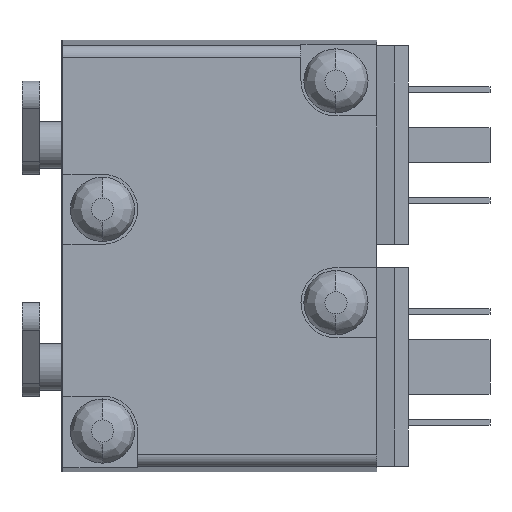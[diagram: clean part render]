
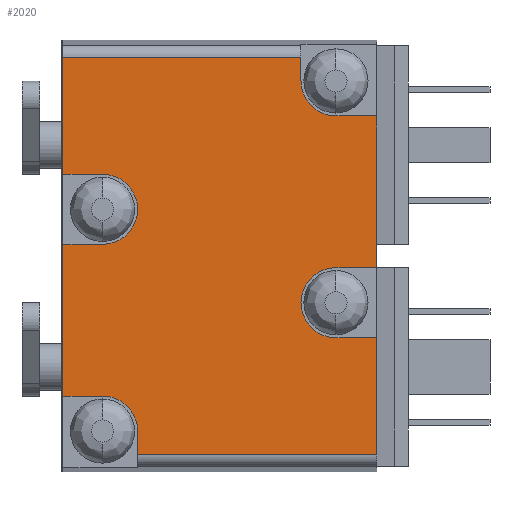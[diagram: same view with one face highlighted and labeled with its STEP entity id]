
A CAD part, left-side view. The second image highlights one B-rep face of the part: STEP entity #2020.
In plain terms, the highlighted planar face has unit normal (-1, 0, 0).
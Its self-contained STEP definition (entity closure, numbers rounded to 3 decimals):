
#38 = CARTESIAN_POINT ( 'NONE',  ( -51.5, 38., -84.5 ) ) ;
#126 = DIRECTION ( 'NONE',  ( 0., 0., -1. ) ) ;
#159 = DIRECTION ( 'NONE',  ( 0., 1., 0. ) ) ;
#168 = DIRECTION ( 'NONE',  ( 0., 0., 1. ) ) ;
#253 = EDGE_CURVE ( 'NONE', #3069, #1225, #1339, .T. ) ;
#258 = EDGE_CURVE ( 'NONE', #2555, #1352, #1321, .T. ) ;
#312 = VECTOR ( 'NONE', #4211, 1000. ) ;
#322 = DIRECTION ( 'NONE',  ( 1., 0., 0. ) ) ;
#414 = AXIS2_PLACEMENT_3D ( 'NONE', #5415, #322, #1976 ) ;
#456 = VECTOR ( 'NONE', #1875, 1000. ) ;
#466 = LINE ( 'NONE', #5169, #2394 ) ;
#484 = DIRECTION ( 'NONE',  ( 0., 0., -1. ) ) ;
#538 = ORIENTED_EDGE ( 'NONE', *, *, #644, .F. ) ;
#636 = ORIENTED_EDGE ( 'NONE', *, *, #1551, .T. ) ;
#644 = EDGE_CURVE ( 'NONE', #4449, #1052, #1478, .T. ) ;
#676 = LINE ( 'NONE', #1541, #1917 ) ;
#682 = CARTESIAN_POINT ( 'NONE',  ( -51.5, 38., -84.5 ) ) ;
#686 = FACE_OUTER_BOUND ( 'NONE', #3077, .T. ) ;
#713 = LINE ( 'NONE', #2426, #3726 ) ;
#773 = CARTESIAN_POINT ( 'NONE',  ( -51.5, 41.4, -68.451 ) ) ;
#822 = CARTESIAN_POINT ( 'NONE',  ( -51.5, 18., -73.5 ) ) ;
#832 = DIRECTION ( 'NONE',  ( 0., 0., -1. ) ) ;
#840 = VECTOR ( 'NONE', #5448, 1000. ) ;
#853 = EDGE_CURVE ( 'NONE', #2935, #5399, #5081, .T. ) ;
#928 = VERTEX_POINT ( 'NONE', #1838 ) ;
#944 = ORIENTED_EDGE ( 'NONE', *, *, #4030, .F. ) ;
#1052 = VERTEX_POINT ( 'NONE', #4416 ) ;
#1057 = VERTEX_POINT ( 'NONE', #1975 ) ;
#1116 = EDGE_CURVE ( 'NONE', #3470, #1052, #3239, .T. ) ;
#1170 = LINE ( 'NONE', #3358, #4849 ) ;
#1177 = LINE ( 'NONE', #5041, #312 ) ;
#1187 = LINE ( 'NONE', #2849, #4894 ) ;
#1193 = CARTESIAN_POINT ( 'NONE',  ( -51.5, 35., -100.5 ) ) ;
#1196 = EDGE_CURVE ( 'NONE', #5399, #3113, #713, .T. ) ;
#1225 = VERTEX_POINT ( 'NONE', #1618 ) ;
#1241 = CARTESIAN_POINT ( 'NONE',  ( -51.5, 14.5, -102.549 ) ) ;
#1263 = EDGE_CURVE ( 'NONE', #1225, #4977, #4226, .T. ) ;
#1281 = EDGE_CURVE ( 'NONE', #4977, #1057, #3332, .T. ) ;
#1321 = LINE ( 'NONE', #3036, #5371 ) ;
#1339 = CIRCLE ( 'NONE', #4645, 3. ) ;
#1352 = VERTEX_POINT ( 'NONE', #2743 ) ;
#1462 = DIRECTION ( 'NONE',  ( 0., 0., 1. ) ) ;
#1478 = LINE ( 'NONE', #4086, #456 ) ;
#1507 = CARTESIAN_POINT ( 'NONE',  ( -51.5, 41.4, -102.549 ) ) ;
#1529 = VERTEX_POINT ( 'NONE', #4222 ) ;
#1541 = CARTESIAN_POINT ( 'NONE',  ( -51.5, 21., -70.5 ) ) ;
#1551 = EDGE_CURVE ( 'NONE', #1352, #3862, #2547, .T. ) ;
#1568 = DIRECTION ( 'NONE',  ( 0., 0., 1. ) ) ;
#1618 = CARTESIAN_POINT ( 'NONE',  ( -51.5, 35., -100.5 ) ) ;
#1625 = EDGE_CURVE ( 'NONE', #5155, #5519, #3749, .T. ) ;
#1661 = VECTOR ( 'NONE', #159, 1000. ) ;
#1685 = ORIENTED_EDGE ( 'NONE', *, *, #853, .T. ) ;
#1729 = LINE ( 'NONE', #1507, #2918 ) ;
#1806 = VERTEX_POINT ( 'NONE', #1810 ) ;
#1807 = ORIENTED_EDGE ( 'NONE', *, *, #1263, .T. ) ;
#1810 = CARTESIAN_POINT ( 'NONE',  ( -51.5, 41.4, -78.5 ) ) ;
#1838 = CARTESIAN_POINT ( 'NONE',  ( -51.5, 21., -70.5 ) ) ;
#1875 = DIRECTION ( 'NONE',  ( 0., 0., 1. ) ) ;
#1917 = VECTOR ( 'NONE', #1462, 1000. ) ;
#1975 = CARTESIAN_POINT ( 'NONE',  ( -51.5, 14.5, -102.549 ) ) ;
#1976 = DIRECTION ( 'NONE',  ( 0., 1., 0. ) ) ;
#1979 = DIRECTION ( 'NONE',  ( 0., -1., 0. ) ) ;
#2020 = ADVANCED_FACE ( 'NONE', ( #686 ), #2453, .F. ) ;
#2173 = AXIS2_PLACEMENT_3D ( 'NONE', #2240, #2774, #3641 ) ;
#2215 = EDGE_CURVE ( 'NONE', #3113, #928, #3576, .T. ) ;
#2240 = CARTESIAN_POINT ( 'NONE',  ( -51.5, 38., -81.5 ) ) ;
#2262 = ORIENTED_EDGE ( 'NONE', *, *, #2215, .T. ) ;
#2278 = CARTESIAN_POINT ( 'NONE',  ( -51.5, 14.5, -92.5 ) ) ;
#2390 = VECTOR ( 'NONE', #4663, 1000. ) ;
#2394 = VECTOR ( 'NONE', #3016, 1000. ) ;
#2405 = CARTESIAN_POINT ( 'NONE',  ( -51.5, 38., -97.5 ) ) ;
#2426 = CARTESIAN_POINT ( 'NONE',  ( -51.5, 14.5, -73.5 ) ) ;
#2453 = PLANE ( 'NONE',  #414 ) ;
#2547 = CIRCLE ( 'NONE', #2635, 3. ) ;
#2555 = VERTEX_POINT ( 'NONE', #2278 ) ;
#2573 = CARTESIAN_POINT ( 'NONE',  ( -51.5, 41.4, -68.451 ) ) ;
#2607 = ORIENTED_EDGE ( 'NONE', *, *, #5309, .T. ) ;
#2635 = AXIS2_PLACEMENT_3D ( 'NONE', #4975, #5424, #5372 ) ;
#2730 = DIRECTION ( 'NONE',  ( 1., 0., 0. ) ) ;
#2743 = CARTESIAN_POINT ( 'NONE',  ( -51.5, 18., -92.5 ) ) ;
#2756 = EDGE_CURVE ( 'NONE', #1806, #1529, #466, .T. ) ;
#2774 = DIRECTION ( 'NONE',  ( 1., 0., 0. ) ) ;
#2849 = CARTESIAN_POINT ( 'NONE',  ( -51.5, 18., -86.5 ) ) ;
#2884 = CARTESIAN_POINT ( 'NONE',  ( -51.5, 35., -102.549 ) ) ;
#2918 = VECTOR ( 'NONE', #168, 1000. ) ;
#2935 = VERTEX_POINT ( 'NONE', #4454 ) ;
#3016 = DIRECTION ( 'NONE',  ( 0., -1., 0. ) ) ;
#3029 = EDGE_CURVE ( 'NONE', #3862, #2935, #1187, .T. ) ;
#3030 = CARTESIAN_POINT ( 'NONE',  ( -51.5, 41.4, -97.5 ) ) ;
#3036 = CARTESIAN_POINT ( 'NONE',  ( -51.5, 14.5, -92.5 ) ) ;
#3069 = VERTEX_POINT ( 'NONE', #2405 ) ;
#3077 = EDGE_LOOP ( 'NONE', ( #5049, #2607, #3768, #538, #4622, #5419, #1807, #4224, #3141, #4212, #636, #4634, #1685, #4901, #2262, #3314, #3684, #944 ) ) ;
#3113 = VERTEX_POINT ( 'NONE', #822 ) ;
#3141 = ORIENTED_EDGE ( 'NONE', *, *, #5074, .T. ) ;
#3239 = LINE ( 'NONE', #682, #1661 ) ;
#3314 = ORIENTED_EDGE ( 'NONE', *, *, #4493, .T. ) ;
#3332 = LINE ( 'NONE', #4283, #2390 ) ;
#3358 = CARTESIAN_POINT ( 'NONE',  ( -51.5, 14.5, -102.549 ) ) ;
#3470 = VERTEX_POINT ( 'NONE', #38 ) ;
#3576 = CIRCLE ( 'NONE', #4632, 3. ) ;
#3641 = DIRECTION ( 'NONE',  ( 0., 0., -1. ) ) ;
#3684 = ORIENTED_EDGE ( 'NONE', *, *, #1625, .F. ) ;
#3726 = VECTOR ( 'NONE', #4214, 1000. ) ;
#3749 = LINE ( 'NONE', #773, #840 ) ;
#3768 = ORIENTED_EDGE ( 'NONE', *, *, #1116, .T. ) ;
#3849 = CARTESIAN_POINT ( 'NONE',  ( -51.5, 14.5, -73.5 ) ) ;
#3862 = VERTEX_POINT ( 'NONE', #5357 ) ;
#4030 = EDGE_CURVE ( 'NONE', #1806, #5155, #1729, .T. ) ;
#4086 = CARTESIAN_POINT ( 'NONE',  ( -51.5, 41.4, -102.549 ) ) ;
#4211 = DIRECTION ( 'NONE',  ( 0., -1., 0. ) ) ;
#4212 = ORIENTED_EDGE ( 'NONE', *, *, #258, .T. ) ;
#4214 = DIRECTION ( 'NONE',  ( 0., 1., 0. ) ) ;
#4222 = CARTESIAN_POINT ( 'NONE',  ( -51.5, 38., -78.5 ) ) ;
#4224 = ORIENTED_EDGE ( 'NONE', *, *, #1281, .T. ) ;
#4226 = LINE ( 'NONE', #1193, #4349 ) ;
#4233 = CIRCLE ( 'NONE', #2173, 3. ) ;
#4247 = DIRECTION ( 'NONE',  ( 0., 0., 1. ) ) ;
#4251 = EDGE_CURVE ( 'NONE', #4449, #3069, #1177, .T. ) ;
#4283 = CARTESIAN_POINT ( 'NONE',  ( -51.5, 41.4, -102.549 ) ) ;
#4298 = DIRECTION ( 'NONE',  ( 1., 0., 0. ) ) ;
#4349 = VECTOR ( 'NONE', #832, 1000. ) ;
#4354 = CARTESIAN_POINT ( 'NONE',  ( -51.5, 38., -100.5 ) ) ;
#4416 = CARTESIAN_POINT ( 'NONE',  ( -51.5, 41.4, -84.5 ) ) ;
#4439 = CARTESIAN_POINT ( 'NONE',  ( -51.5, 18., -70.5 ) ) ;
#4449 = VERTEX_POINT ( 'NONE', #3030 ) ;
#4454 = CARTESIAN_POINT ( 'NONE',  ( -51.5, 14.5, -86.5 ) ) ;
#4493 = EDGE_CURVE ( 'NONE', #928, #5519, #676, .T. ) ;
#4622 = ORIENTED_EDGE ( 'NONE', *, *, #4251, .T. ) ;
#4632 = AXIS2_PLACEMENT_3D ( 'NONE', #4439, #2730, #126 ) ;
#4634 = ORIENTED_EDGE ( 'NONE', *, *, #3029, .T. ) ;
#4645 = AXIS2_PLACEMENT_3D ( 'NONE', #4354, #4298, #484 ) ;
#4663 = DIRECTION ( 'NONE',  ( 0., -1., 0. ) ) ;
#4734 = DIRECTION ( 'NONE',  ( 0., 1., 0. ) ) ;
#4849 = VECTOR ( 'NONE', #1568, 1000. ) ;
#4858 = VECTOR ( 'NONE', #4247, 1000. ) ;
#4894 = VECTOR ( 'NONE', #1979, 1000. ) ;
#4901 = ORIENTED_EDGE ( 'NONE', *, *, #1196, .T. ) ;
#4975 = CARTESIAN_POINT ( 'NONE',  ( -51.5, 18., -89.5 ) ) ;
#4977 = VERTEX_POINT ( 'NONE', #2884 ) ;
#5041 = CARTESIAN_POINT ( 'NONE',  ( -51.5, 41.5, -97.5 ) ) ;
#5049 = ORIENTED_EDGE ( 'NONE', *, *, #2756, .T. ) ;
#5074 = EDGE_CURVE ( 'NONE', #1057, #2555, #1170, .T. ) ;
#5081 = LINE ( 'NONE', #1241, #4858 ) ;
#5155 = VERTEX_POINT ( 'NONE', #2573 ) ;
#5169 = CARTESIAN_POINT ( 'NONE',  ( -51.5, 41.5, -78.5 ) ) ;
#5242 = CARTESIAN_POINT ( 'NONE',  ( -51.5, 21., -68.451 ) ) ;
#5309 = EDGE_CURVE ( 'NONE', #1529, #3470, #4233, .T. ) ;
#5357 = CARTESIAN_POINT ( 'NONE',  ( -51.5, 18., -86.5 ) ) ;
#5371 = VECTOR ( 'NONE', #4734, 1000. ) ;
#5372 = DIRECTION ( 'NONE',  ( 0., 0., -1. ) ) ;
#5399 = VERTEX_POINT ( 'NONE', #3849 ) ;
#5415 = CARTESIAN_POINT ( 'NONE',  ( -51.5, 41.4, -102.549 ) ) ;
#5419 = ORIENTED_EDGE ( 'NONE', *, *, #253, .T. ) ;
#5424 = DIRECTION ( 'NONE',  ( 1., 0., 0. ) ) ;
#5448 = DIRECTION ( 'NONE',  ( 0., -1., 0. ) ) ;
#5519 = VERTEX_POINT ( 'NONE', #5242 ) ;
